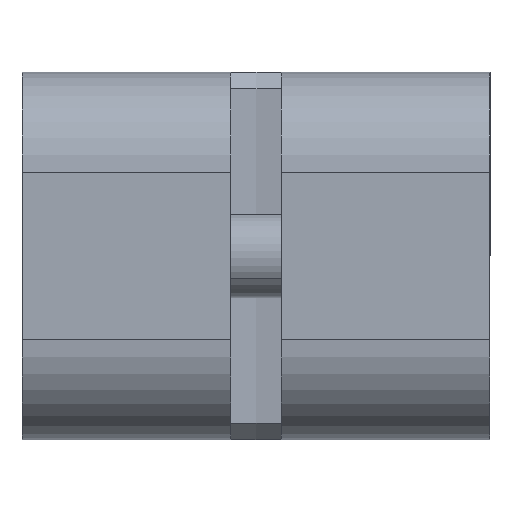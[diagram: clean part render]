
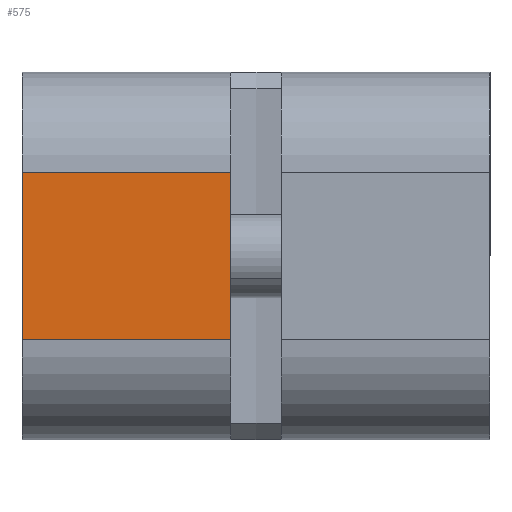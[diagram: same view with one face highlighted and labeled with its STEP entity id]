
A CAD part, left-side view. The second image highlights one B-rep face of the part: STEP entity #575.
In plain terms, the highlighted planar face has unit normal (-1, 0, 0).
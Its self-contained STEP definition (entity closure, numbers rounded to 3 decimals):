
#575 = ADVANCED_FACE ( 'NONE', ( #9473 ), #11016, .T. ) ;
#1021 = LINE ( 'NONE', #18060, #10193 ) ;
#1406 = VECTOR ( 'NONE', #15157, 1000. ) ;
#2705 = EDGE_LOOP ( 'NONE', ( #17289, #5218, #10971, #14663 ) ) ;
#2871 = AXIS2_PLACEMENT_3D ( 'NONE', #12315, #12392, #12369 ) ;
#3548 = VERTEX_POINT ( 'NONE', #12064 ) ;
#4205 = CARTESIAN_POINT ( 'NONE',  ( 8.572, 49.334, -18.364 ) ) ;
#4693 = VERTEX_POINT ( 'NONE', #18821 ) ;
#4974 = EDGE_CURVE ( 'NONE', #15417, #3548, #21302, .T. ) ;
#5218 = ORIENTED_EDGE ( 'NONE', *, *, #6666, .T. ) ;
#6666 = EDGE_CURVE ( 'NONE', #4693, #3548, #20269, .T. ) ;
#7083 = DIRECTION ( 'NONE',  ( 0., 0., 1. ) ) ;
#9473 = FACE_OUTER_BOUND ( 'NONE', #2705, .T. ) ;
#10193 = VECTOR ( 'NONE', #7083, 1000. ) ;
#10878 = VERTEX_POINT ( 'NONE', #16841 ) ;
#10971 = ORIENTED_EDGE ( 'NONE', *, *, #4974, .F. ) ;
#11016 = PLANE ( 'NONE',  #2871 ) ;
#11363 = DIRECTION ( 'NONE',  ( 0., 0., 1. ) ) ;
#12064 = CARTESIAN_POINT ( 'NONE',  ( 8.572, 55.584, -18.364 ) ) ;
#12315 = CARTESIAN_POINT ( 'NONE',  ( 8.572, 55.584, -28.364 ) ) ;
#12369 = DIRECTION ( 'NONE',  ( 0., -1., 0. ) ) ;
#12392 = DIRECTION ( 'NONE',  ( -1., 0., 0. ) ) ;
#12407 = VECTOR ( 'NONE', #15573, 1000. ) ;
#13795 = CARTESIAN_POINT ( 'NONE',  ( 8.572, 55.584, -28.364 ) ) ;
#14663 = ORIENTED_EDGE ( 'NONE', *, *, #17438, .T. ) ;
#15157 = DIRECTION ( 'NONE',  ( 0., 1., 0. ) ) ;
#15329 = CARTESIAN_POINT ( 'NONE',  ( 8.572, 49.334, -28.364 ) ) ;
#15417 = VERTEX_POINT ( 'NONE', #13795 ) ;
#15573 = DIRECTION ( 'NONE',  ( 0., -1., 0. ) ) ;
#16438 = VECTOR ( 'NONE', #11363, 1000. ) ;
#16841 = CARTESIAN_POINT ( 'NONE',  ( 8.572, 43.084, -28.364 ) ) ;
#17259 = LINE ( 'NONE', #15329, #12407 ) ;
#17289 = ORIENTED_EDGE ( 'NONE', *, *, #19810, .T. ) ;
#17438 = EDGE_CURVE ( 'NONE', #15417, #10878, #17259, .T. ) ;
#18060 = CARTESIAN_POINT ( 'NONE',  ( 8.572, 43.084, -23.364 ) ) ;
#18821 = CARTESIAN_POINT ( 'NONE',  ( 8.572, 43.084, -18.364 ) ) ;
#19810 = EDGE_CURVE ( 'NONE', #10878, #4693, #1021, .T. ) ;
#20269 = LINE ( 'NONE', #4205, #1406 ) ;
#20458 = CARTESIAN_POINT ( 'NONE',  ( 8.572, 55.584, -23.364 ) ) ;
#21302 = LINE ( 'NONE', #20458, #16438 ) ;
